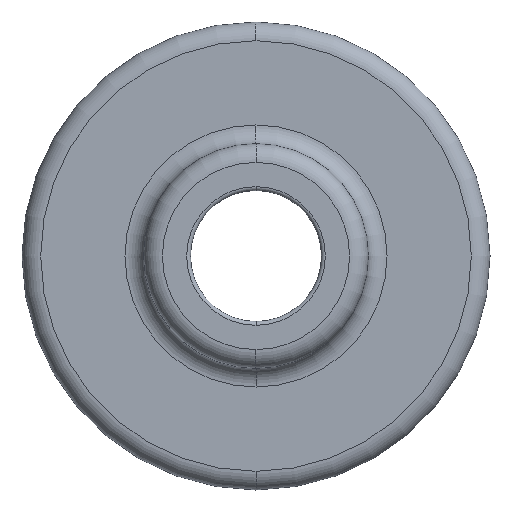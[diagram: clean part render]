
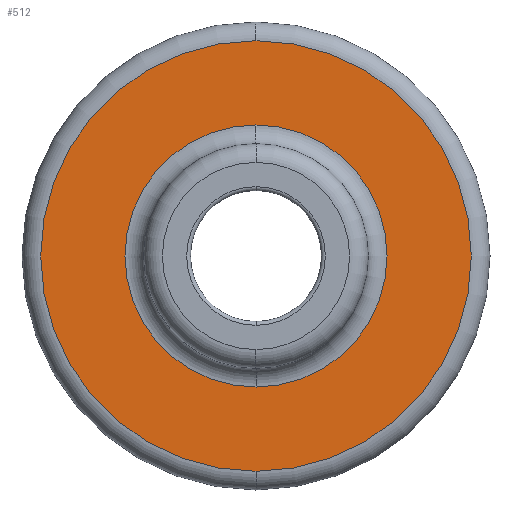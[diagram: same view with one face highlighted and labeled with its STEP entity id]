
A CAD part, left-side view. The second image highlights one B-rep face of the part: STEP entity #512.
In plain terms, the highlighted planar face has unit normal (-1, 0, 0).
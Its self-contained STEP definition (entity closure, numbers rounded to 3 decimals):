
#5 = CARTESIAN_POINT ( 'NONE',  ( -2., 0., -7. ) ) ;
#15 = CIRCLE ( 'NONE', #421, 7. ) ;
#28 = DIRECTION ( 'NONE',  ( 1., 0., 0. ) ) ;
#45 = ORIENTED_EDGE ( 'NONE', *, *, #529, .T. ) ;
#55 = DIRECTION ( 'NONE',  ( 0., 0., -1. ) ) ;
#65 = CARTESIAN_POINT ( 'NONE',  ( -2., 0., 7. ) ) ;
#67 = AXIS2_PLACEMENT_3D ( 'NONE', #315, #170, #577 ) ;
#69 = AXIS2_PLACEMENT_3D ( 'NONE', #304, #28, #571 ) ;
#93 = CARTESIAN_POINT ( 'NONE',  ( -2., 0., -11.5 ) ) ;
#104 = ORIENTED_EDGE ( 'NONE', *, *, #376, .T. ) ;
#157 = ORIENTED_EDGE ( 'NONE', *, *, #159, .T. ) ;
#159 = EDGE_CURVE ( 'NONE', #256, #160, #332, .T. ) ;
#160 = VERTEX_POINT ( 'NONE', #348 ) ;
#170 = DIRECTION ( 'NONE',  ( -1., 0., 0. ) ) ;
#184 = VERTEX_POINT ( 'NONE', #5 ) ;
#204 = EDGE_CURVE ( 'NONE', #570, #184, #370, .T. ) ;
#216 = DIRECTION ( 'NONE',  ( 0., 0., -1. ) ) ;
#256 = VERTEX_POINT ( 'NONE', #93 ) ;
#267 = CARTESIAN_POINT ( 'NONE',  ( -2., 0., 0. ) ) ;
#290 = AXIS2_PLACEMENT_3D ( 'NONE', #339, #517, #55 ) ;
#304 = CARTESIAN_POINT ( 'NONE',  ( -2., 0., 0. ) ) ;
#312 = PLANE ( 'NONE',  #69 ) ;
#315 = CARTESIAN_POINT ( 'NONE',  ( -2., 0., 0. ) ) ;
#332 = CIRCLE ( 'NONE', #67, 11.5 ) ;
#339 = CARTESIAN_POINT ( 'NONE',  ( -2., 0., 0. ) ) ;
#340 = AXIS2_PLACEMENT_3D ( 'NONE', #407, #501, #541 ) ;
#348 = CARTESIAN_POINT ( 'NONE',  ( -2., 0., 11.5 ) ) ;
#356 = FACE_OUTER_BOUND ( 'NONE', #515, .T. ) ;
#370 = CIRCLE ( 'NONE', #340, 7. ) ;
#376 = EDGE_CURVE ( 'NONE', #160, #256, #536, .T. ) ;
#403 = FACE_BOUND ( 'NONE', #518, .T. ) ;
#407 = CARTESIAN_POINT ( 'NONE',  ( -2., 0., 0. ) ) ;
#421 = AXIS2_PLACEMENT_3D ( 'NONE', #267, #476, #216 ) ;
#462 = ORIENTED_EDGE ( 'NONE', *, *, #204, .T. ) ;
#476 = DIRECTION ( 'NONE',  ( 1., 0., 0. ) ) ;
#501 = DIRECTION ( 'NONE',  ( 1., 0., 0. ) ) ;
#512 = ADVANCED_FACE ( 'NONE', ( #356, #403 ), #312, .F. ) ;
#515 = EDGE_LOOP ( 'NONE', ( #157, #104 ) ) ;
#517 = DIRECTION ( 'NONE',  ( -1., 0., 0. ) ) ;
#518 = EDGE_LOOP ( 'NONE', ( #45, #462 ) ) ;
#529 = EDGE_CURVE ( 'NONE', #184, #570, #15, .T. ) ;
#536 = CIRCLE ( 'NONE', #290, 11.5 ) ;
#541 = DIRECTION ( 'NONE',  ( 0., 0., -1. ) ) ;
#570 = VERTEX_POINT ( 'NONE', #65 ) ;
#571 = DIRECTION ( 'NONE',  ( 0., 0., -1. ) ) ;
#577 = DIRECTION ( 'NONE',  ( 0., 0., -1. ) ) ;
